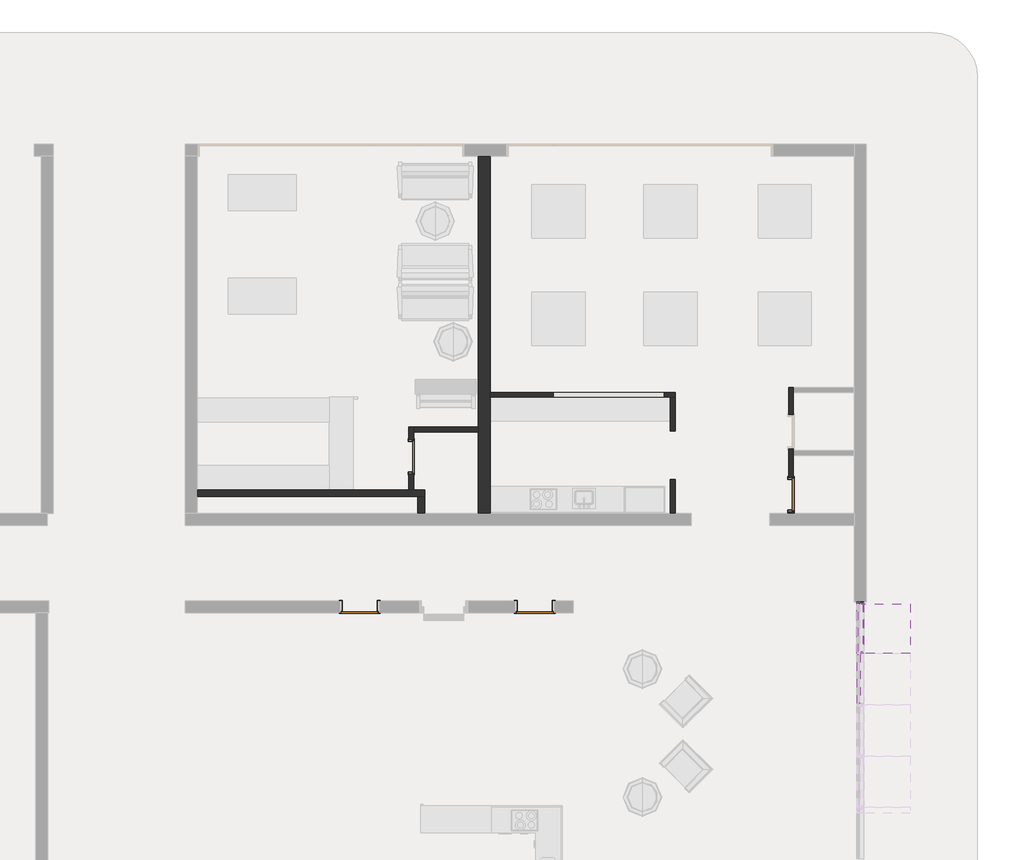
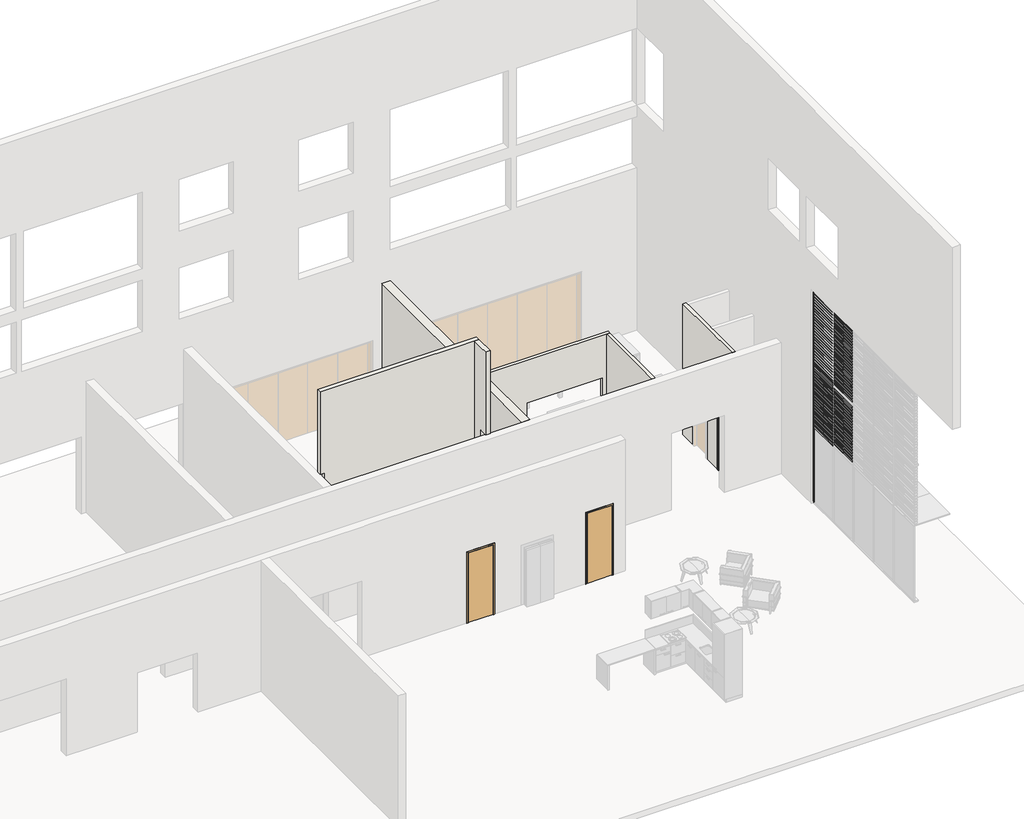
# One storey, part 7 of 8: 73 members, 32 plates, 8 walls, 4 doors.
"""IFC4 building model written with IfcOpenShell, lengths in millimetres."""

from ifc_helpers import new_model, si_unit, frame, origin, place, context, project, spatial, polyline, outline, extrude, faceted_brep, transform, mapped, element, save
from components import swing_metal_frame_single_dor1_c5ce34d2, swing_metal_frame_single_dor1_05198c53, swing_metal_frame_single_dor1_61deca97, rectangular_mullion_50_x_1200mm_c53331d8, rectangular_mullion_50_x_150mm_232fa5d8, rectangular_mullion_50_x_150mm_43455e2b, rectangular_mullion_50_x_150mm_917d0fed, rectangular_mullion_50_x_150mm_69155bbe, rectangular_mullion_timber_70_x_35_baa108a1, rectangular_mullion_timber_70_x_35_2d2b050c, empty_system_panel_empty_6a0359b6, empty_system_panel_empty_9e7b3ea5, empty_system_panel_empty_78dc3901

model = new_model("IFC4")

# Units and contexts
model_context = context("Model", 3, world=origin())
ifc_project = project(units=[si_unit("LENGTHUNIT", "METRE", prefix="MILLI")], contexts=[model_context])

# Site, building, storey
site = spatial("IfcSite", under=ifc_project)
building = spatial("IfcBuilding", under=site)
storey = spatial("IfcBuildingStorey", under=building, Name="0階", Elevation=25100.0)

# Doors
placement = place(None, origin())
swing_metal_frame_single_dor1_shape = swing_metal_frame_single_dor1_c5ce34d2(model_context)
element("IfcDoor", 1, ObjectType="Swing_Metal Frame_Single_DOR1 : 2040h x 820 (2110x920 STUD)", at=placement, inside=storey, context=model_context, shape_type="MappedRepresentation", body=[
    mapped(swing_metal_frame_single_dor1_shape, transform((37782.1585166, 8295.005792, 25100.0), x_axis=(-1.0, 0.0, 0.0), y_axis=(0.0, -1.0, 0.0), z_axis=(0.0, 0.0, 1.0))),
])
element("IfcDoor", 2, ObjectType="Swing_Metal Frame_Single_DOR1 : 2040h x 820 (2110x920 STUD)", at=placement, inside=storey, context=model_context, shape_type="MappedRepresentation", body=[
    mapped(swing_metal_frame_single_dor1_shape, transform((33842.1585166, 8295.005792, 25100.0), x_axis=(-1.0, 0.0, 0.0), y_axis=(0.0, -1.0, 0.0), z_axis=(0.0, 0.0, 1.0))),
])
swing_metal_frame_single_dor1_2_shape = swing_metal_frame_single_dor1_05198c53(model_context)
element("IfcDoor", 3, ObjectType="Swing_Metal Frame_Single_DOR1 : 2040h x 720 (2110x820 STUD)", at=placement, inside=storey, context=model_context, shape_type="MappedRepresentation", body=[
    mapped(swing_metal_frame_single_dor1_2_shape, transform((35003.3118017, 11670.0213727, 25100.0), x_axis=(0.0, -1.0, 0.0), y_axis=(1.0, 0.0, 0.0), z_axis=(0.0, 0.0, 1.0))),
])
swing_metal_frame_single_dor1_3_shape = swing_metal_frame_single_dor1_61deca97(model_context)
element("IfcDoor", 4, ObjectType="Swing_Metal Frame_Single_DOR1 : 2040h x 720 (2110x820 STUD)", at=placement, inside=storey, context=model_context, shape_type="MappedRepresentation", body=[
    mapped(swing_metal_frame_single_dor1_3_shape, transform((43541.7516212, 10820.005792, 25100.0), x_axis=(0.0, 1.0, 0.0), y_axis=(-1.0, 0.0, 0.0), z_axis=(0.0, 0.0, 1.0))),
])

# Members
rectangular_mullion_50_x_1200mm_shape = rectangular_mullion_50_x_1200mm_c53331d8(model_context)
element("IfcMember", 5, ObjectType="Rectangular Mullion : 50 x 1200mm", at=placement, inside=storey, context=model_context, shape_type="MappedRepresentation", body=[
    mapped(rectangular_mullion_50_x_1200mm_shape, transform((45100.0, 8359.0898177, 27800.0), x_axis=(0.0, 0.0, 1.0), y_axis=(1.0, 0.0, 0.0), z_axis=(0.0, 1.0, 0.0))),
])
rectangular_mullion_50_x_150mm_shape = rectangular_mullion_50_x_150mm_232fa5d8(model_context)
element("IfcMember", 6, ObjectType="Rectangular Mullion : 50 x 150mm", at=placement, inside=storey, context=model_context, shape_type="MappedRepresentation", body=[
    mapped(rectangular_mullion_50_x_150mm_shape, transform((45100.0, 8409.0898177, 32600.0), x_axis=(0.0, 0.0, 1.0), y_axis=(1.0, 0.0, 0.0), z_axis=(0.0, 1.0, 0.0))),
])
rectangular_mullion_50_x_150mm_2_shape = rectangular_mullion_50_x_150mm_43455e2b(model_context)
element("IfcMember", 7, ObjectType="Rectangular Mullion : 50 x 150mm", at=placement, inside=storey, context=model_context, shape_type="MappedRepresentation", body=[
    mapped(rectangular_mullion_50_x_150mm_2_shape, transform((45100.0, 8409.0898177, 25150.0), x_axis=(0.0, 1.0, 0.0), y_axis=(1.0, 0.0, 0.0), z_axis=(0.0, 0.0, -1.0))),
])
rectangular_mullion_50_x_150mm_3_shape = rectangular_mullion_50_x_150mm_917d0fed(model_context)
element("IfcMember", 8, ObjectType="Rectangular Mullion : 50 x 150mm", at=placement, inside=storey, context=model_context, shape_type="MappedRepresentation", body=[
    mapped(rectangular_mullion_50_x_150mm_3_shape, transform((45100.0, 8359.0898177, 29900.0), x_axis=(0.0, 0.0, 1.0), y_axis=(1.0, 0.0, 0.0), z_axis=(0.0, 1.0, 0.0))),
])
rectangular_mullion_50_x_150mm_4_shape = rectangular_mullion_50_x_150mm_69155bbe(model_context)
element("IfcMember", 9, ObjectType="Rectangular Mullion : 50 x 150mm", at=placement, inside=storey, context=model_context, shape_type="MappedRepresentation", body=[
    mapped(rectangular_mullion_50_x_150mm_4_shape, transform((45100.0, 8409.0898177, 27800.0), x_axis=(0.0, 1.0, 0.0), y_axis=(1.0, 0.0, 0.0), z_axis=(0.0, 0.0, -1.0))),
])
element("IfcMember", 10, ObjectType="Rectangular Mullion : 50 x 150mm", at=placement, inside=storey, context=model_context, shape_type="MappedRepresentation", body=[
    mapped(rectangular_mullion_50_x_150mm_2_shape, transform((45100.0, 8409.0898177, 29900.0), x_axis=(0.0, 1.0, 0.0), y_axis=(1.0, 0.0, 0.0), z_axis=(0.0, 0.0, -1.0))),
])
rectangular_mullion_timber_70_x_35_shape = rectangular_mullion_timber_70_x_35_baa108a1(model_context)
element("IfcMember", 11, ObjectType="Rectangular Mullion : Timber - 70 x 35", at=placement, inside=storey, context=model_context, shape_type="MappedRepresentation", body=[
    mapped(rectangular_mullion_timber_70_x_35_shape, transform((45100.0, 8359.0898177, 27907.5), x_axis=(0.0, 0.0, 1.0), y_axis=(1.0, 0.0, 0.0), z_axis=(0.0, 1.0, 0.0))),
])
element("IfcMember", 12, ObjectType="Rectangular Mullion : Timber - 70 x 35", at=placement, inside=storey, context=model_context, shape_type="MappedRepresentation", body=[
    mapped(rectangular_mullion_timber_70_x_35_shape, transform((45100.0, 8359.0898177, 28007.5), x_axis=(0.0, 0.0, 1.0), y_axis=(1.0, 0.0, 0.0), z_axis=(0.0, 1.0, 0.0))),
])
element("IfcMember", 13, ObjectType="Rectangular Mullion : Timber - 70 x 35", at=placement, inside=storey, context=model_context, shape_type="MappedRepresentation", body=[
    mapped(rectangular_mullion_timber_70_x_35_shape, transform((45100.0, 8359.0898177, 28107.5), x_axis=(0.0, 0.0, 1.0), y_axis=(1.0, 0.0, 0.0), z_axis=(0.0, 1.0, 0.0))),
])
element("IfcMember", 14, ObjectType="Rectangular Mullion : Timber - 70 x 35", at=placement, inside=storey, context=model_context, shape_type="MappedRepresentation", body=[
    mapped(rectangular_mullion_timber_70_x_35_shape, transform((45100.0, 8359.0898177, 28207.5), x_axis=(0.0, 0.0, 1.0), y_axis=(1.0, 0.0, 0.0), z_axis=(0.0, 1.0, 0.0))),
])
element("IfcMember", 15, ObjectType="Rectangular Mullion : Timber - 70 x 35", at=placement, inside=storey, context=model_context, shape_type="MappedRepresentation", body=[
    mapped(rectangular_mullion_timber_70_x_35_shape, transform((45100.0, 8359.0898177, 28307.5), x_axis=(0.0, 0.0, 1.0), y_axis=(1.0, 0.0, 0.0), z_axis=(0.0, 1.0, 0.0))),
])
element("IfcMember", 16, ObjectType="Rectangular Mullion : Timber - 70 x 35", at=placement, inside=storey, context=model_context, shape_type="MappedRepresentation", body=[
    mapped(rectangular_mullion_timber_70_x_35_shape, transform((45100.0, 8359.0898177, 28407.5), x_axis=(0.0, 0.0, 1.0), y_axis=(1.0, 0.0, 0.0), z_axis=(0.0, 1.0, 0.0))),
])
element("IfcMember", 17, ObjectType="Rectangular Mullion : Timber - 70 x 35", at=placement, inside=storey, context=model_context, shape_type="MappedRepresentation", body=[
    mapped(rectangular_mullion_timber_70_x_35_shape, transform((45100.0, 8359.0898177, 28507.5), x_axis=(0.0, 0.0, 1.0), y_axis=(1.0, 0.0, 0.0), z_axis=(0.0, 1.0, 0.0))),
])
element("IfcMember", 18, ObjectType="Rectangular Mullion : Timber - 70 x 35", at=placement, inside=storey, context=model_context, shape_type="MappedRepresentation", body=[
    mapped(rectangular_mullion_timber_70_x_35_shape, transform((45100.0, 8359.0898177, 28607.5), x_axis=(0.0, 0.0, 1.0), y_axis=(1.0, 0.0, 0.0), z_axis=(0.0, 1.0, 0.0))),
])
element("IfcMember", 19, ObjectType="Rectangular Mullion : Timber - 70 x 35", at=placement, inside=storey, context=model_context, shape_type="MappedRepresentation", body=[
    mapped(rectangular_mullion_timber_70_x_35_shape, transform((45100.0, 8359.0898177, 28707.5), x_axis=(0.0, 0.0, 1.0), y_axis=(1.0, 0.0, 0.0), z_axis=(0.0, 1.0, 0.0))),
])
element("IfcMember", 20, ObjectType="Rectangular Mullion : Timber - 70 x 35", at=placement, inside=storey, context=model_context, shape_type="MappedRepresentation", body=[
    mapped(rectangular_mullion_timber_70_x_35_shape, transform((45100.0, 8359.0898177, 28807.5), x_axis=(0.0, 0.0, 1.0), y_axis=(1.0, 0.0, 0.0), z_axis=(0.0, 1.0, 0.0))),
])
element("IfcMember", 21, ObjectType="Rectangular Mullion : Timber - 70 x 35", at=placement, inside=storey, context=model_context, shape_type="MappedRepresentation", body=[
    mapped(rectangular_mullion_timber_70_x_35_shape, transform((45100.0, 8359.0898177, 28907.5), x_axis=(0.0, 0.0, 1.0), y_axis=(1.0, 0.0, 0.0), z_axis=(0.0, 1.0, 0.0))),
])
element("IfcMember", 22, ObjectType="Rectangular Mullion : Timber - 70 x 35", at=placement, inside=storey, context=model_context, shape_type="MappedRepresentation", body=[
    mapped(rectangular_mullion_timber_70_x_35_shape, transform((45100.0, 8359.0898177, 29007.5), x_axis=(0.0, 0.0, 1.0), y_axis=(1.0, 0.0, 0.0), z_axis=(0.0, 1.0, 0.0))),
])
element("IfcMember", 23, ObjectType="Rectangular Mullion : Timber - 70 x 35", at=placement, inside=storey, context=model_context, shape_type="MappedRepresentation", body=[
    mapped(rectangular_mullion_timber_70_x_35_shape, transform((45100.0, 8359.0898177, 29107.5), x_axis=(0.0, 0.0, 1.0), y_axis=(1.0, 0.0, 0.0), z_axis=(0.0, 1.0, 0.0))),
])
element("IfcMember", 24, ObjectType="Rectangular Mullion : Timber - 70 x 35", at=placement, inside=storey, context=model_context, shape_type="MappedRepresentation", body=[
    mapped(rectangular_mullion_timber_70_x_35_shape, transform((45100.0, 8359.0898177, 29207.5), x_axis=(0.0, 0.0, 1.0), y_axis=(1.0, 0.0, 0.0), z_axis=(0.0, 1.0, 0.0))),
])
element("IfcMember", 25, ObjectType="Rectangular Mullion : Timber - 70 x 35", at=placement, inside=storey, context=model_context, shape_type="MappedRepresentation", body=[
    mapped(rectangular_mullion_timber_70_x_35_shape, transform((45100.0, 8359.0898177, 29307.5), x_axis=(0.0, 0.0, 1.0), y_axis=(1.0, 0.0, 0.0), z_axis=(0.0, 1.0, 0.0))),
])
element("IfcMember", 26, ObjectType="Rectangular Mullion : Timber - 70 x 35", at=placement, inside=storey, context=model_context, shape_type="MappedRepresentation", body=[
    mapped(rectangular_mullion_timber_70_x_35_shape, transform((45100.0, 8359.0898177, 29407.5), x_axis=(0.0, 0.0, 1.0), y_axis=(1.0, 0.0, 0.0), z_axis=(0.0, 1.0, 0.0))),
])
element("IfcMember", 27, ObjectType="Rectangular Mullion : Timber - 70 x 35", at=placement, inside=storey, context=model_context, shape_type="MappedRepresentation", body=[
    mapped(rectangular_mullion_timber_70_x_35_shape, transform((45100.0, 8359.0898177, 29507.5), x_axis=(0.0, 0.0, 1.0), y_axis=(1.0, 0.0, 0.0), z_axis=(0.0, 1.0, 0.0))),
])
element("IfcMember", 28, ObjectType="Rectangular Mullion : Timber - 70 x 35", at=placement, inside=storey, context=model_context, shape_type="MappedRepresentation", body=[
    mapped(rectangular_mullion_timber_70_x_35_shape, transform((45100.0, 8359.0898177, 29607.5), x_axis=(0.0, 0.0, 1.0), y_axis=(1.0, 0.0, 0.0), z_axis=(0.0, 1.0, 0.0))),
])
element("IfcMember", 29, ObjectType="Rectangular Mullion : Timber - 70 x 35", at=placement, inside=storey, context=model_context, shape_type="MappedRepresentation", body=[
    mapped(rectangular_mullion_timber_70_x_35_shape, transform((45100.0, 8359.0898177, 29707.5), x_axis=(0.0, 0.0, 1.0), y_axis=(1.0, 0.0, 0.0), z_axis=(0.0, 1.0, 0.0))),
])
element("IfcMember", 30, ObjectType="Rectangular Mullion : Timber - 70 x 35", at=placement, inside=storey, context=model_context, shape_type="MappedRepresentation", body=[
    mapped(rectangular_mullion_timber_70_x_35_shape, transform((45100.0, 8359.0898177, 29807.5), x_axis=(0.0, 0.0, 1.0), y_axis=(1.0, 0.0, 0.0), z_axis=(0.0, 1.0, 0.0))),
])
element("IfcMember", 31, ObjectType="Rectangular Mullion : Timber - 70 x 35", at=placement, inside=storey, context=model_context, shape_type="MappedRepresentation", body=[
    mapped(rectangular_mullion_timber_70_x_35_shape, transform((45100.0, 8359.0898177, 30007.5), x_axis=(0.0, 0.0, 1.0), y_axis=(1.0, 0.0, 0.0), z_axis=(0.0, 1.0, 0.0))),
])
rectangular_mullion_timber_70_x_35_2_shape = rectangular_mullion_timber_70_x_35_2d2b050c(model_context)
element("IfcMember", 32, ObjectType="Rectangular Mullion : Timber - 70 x 35", at=placement, inside=storey, context=model_context, shape_type="MappedRepresentation", body=[
    mapped(rectangular_mullion_timber_70_x_35_2_shape, transform((45100.0, 7226.9469605, 27907.5), x_axis=(0.0, 0.0, 1.0), y_axis=(1.0, 0.0, 0.0), z_axis=(0.0, 1.0, 0.0))),
])
element("IfcMember", 33, ObjectType="Rectangular Mullion : Timber - 70 x 35", at=placement, inside=storey, context=model_context, shape_type="MappedRepresentation", body=[
    mapped(rectangular_mullion_timber_70_x_35_2_shape, transform((45100.0, 7226.9469605, 28007.5), x_axis=(0.0, 0.0, 1.0), y_axis=(1.0, 0.0, 0.0), z_axis=(0.0, 1.0, 0.0))),
])
element("IfcMember", 34, ObjectType="Rectangular Mullion : Timber - 70 x 35", at=placement, inside=storey, context=model_context, shape_type="MappedRepresentation", body=[
    mapped(rectangular_mullion_timber_70_x_35_2_shape, transform((45100.0, 7226.9469605, 28107.5), x_axis=(0.0, 0.0, 1.0), y_axis=(1.0, 0.0, 0.0), z_axis=(0.0, 1.0, 0.0))),
])
element("IfcMember", 35, ObjectType="Rectangular Mullion : Timber - 70 x 35", at=placement, inside=storey, context=model_context, shape_type="MappedRepresentation", body=[
    mapped(rectangular_mullion_timber_70_x_35_2_shape, transform((45100.0, 7226.9469605, 28207.5), x_axis=(0.0, 0.0, 1.0), y_axis=(1.0, 0.0, 0.0), z_axis=(0.0, 1.0, 0.0))),
])
element("IfcMember", 36, ObjectType="Rectangular Mullion : Timber - 70 x 35", at=placement, inside=storey, context=model_context, shape_type="MappedRepresentation", body=[
    mapped(rectangular_mullion_timber_70_x_35_2_shape, transform((45100.0, 7226.9469605, 28307.5), x_axis=(0.0, 0.0, 1.0), y_axis=(1.0, 0.0, 0.0), z_axis=(0.0, 1.0, 0.0))),
])
element("IfcMember", 37, ObjectType="Rectangular Mullion : Timber - 70 x 35", at=placement, inside=storey, context=model_context, shape_type="MappedRepresentation", body=[
    mapped(rectangular_mullion_timber_70_x_35_2_shape, transform((45100.0, 7226.9469605, 28407.5), x_axis=(0.0, 0.0, 1.0), y_axis=(1.0, 0.0, 0.0), z_axis=(0.0, 1.0, 0.0))),
])
element("IfcMember", 38, ObjectType="Rectangular Mullion : Timber - 70 x 35", at=placement, inside=storey, context=model_context, shape_type="MappedRepresentation", body=[
    mapped(rectangular_mullion_timber_70_x_35_2_shape, transform((45100.0, 7226.9469605, 28507.5), x_axis=(0.0, 0.0, 1.0), y_axis=(1.0, 0.0, 0.0), z_axis=(0.0, 1.0, 0.0))),
])
element("IfcMember", 39, ObjectType="Rectangular Mullion : Timber - 70 x 35", at=placement, inside=storey, context=model_context, shape_type="MappedRepresentation", body=[
    mapped(rectangular_mullion_timber_70_x_35_2_shape, transform((45100.0, 7226.9469605, 28607.5), x_axis=(0.0, 0.0, 1.0), y_axis=(1.0, 0.0, 0.0), z_axis=(0.0, 1.0, 0.0))),
])
element("IfcMember", 40, ObjectType="Rectangular Mullion : Timber - 70 x 35", at=placement, inside=storey, context=model_context, shape_type="MappedRepresentation", body=[
    mapped(rectangular_mullion_timber_70_x_35_2_shape, transform((45100.0, 7226.9469605, 28707.5), x_axis=(0.0, 0.0, 1.0), y_axis=(1.0, 0.0, 0.0), z_axis=(0.0, 1.0, 0.0))),
])
element("IfcMember", 41, ObjectType="Rectangular Mullion : Timber - 70 x 35", at=placement, inside=storey, context=model_context, shape_type="MappedRepresentation", body=[
    mapped(rectangular_mullion_timber_70_x_35_2_shape, transform((45100.0, 7226.9469605, 28807.5), x_axis=(0.0, 0.0, 1.0), y_axis=(1.0, 0.0, 0.0), z_axis=(0.0, 1.0, 0.0))),
])
element("IfcMember", 42, ObjectType="Rectangular Mullion : Timber - 70 x 35", at=placement, inside=storey, context=model_context, shape_type="MappedRepresentation", body=[
    mapped(rectangular_mullion_timber_70_x_35_2_shape, transform((45100.0, 7226.9469605, 28907.5), x_axis=(0.0, 0.0, 1.0), y_axis=(1.0, 0.0, 0.0), z_axis=(0.0, 1.0, 0.0))),
])
element("IfcMember", 43, ObjectType="Rectangular Mullion : Timber - 70 x 35", at=placement, inside=storey, context=model_context, shape_type="MappedRepresentation", body=[
    mapped(rectangular_mullion_timber_70_x_35_2_shape, transform((45100.0, 7226.9469605, 29007.5), x_axis=(0.0, 0.0, 1.0), y_axis=(1.0, 0.0, 0.0), z_axis=(0.0, 1.0, 0.0))),
])
element("IfcMember", 44, ObjectType="Rectangular Mullion : Timber - 70 x 35", at=placement, inside=storey, context=model_context, shape_type="MappedRepresentation", body=[
    mapped(rectangular_mullion_timber_70_x_35_2_shape, transform((45100.0, 7226.9469605, 29107.5), x_axis=(0.0, 0.0, 1.0), y_axis=(1.0, 0.0, 0.0), z_axis=(0.0, 1.0, 0.0))),
])
element("IfcMember", 45, ObjectType="Rectangular Mullion : Timber - 70 x 35", at=placement, inside=storey, context=model_context, shape_type="MappedRepresentation", body=[
    mapped(rectangular_mullion_timber_70_x_35_2_shape, transform((45100.0, 7226.9469605, 29207.5), x_axis=(0.0, 0.0, 1.0), y_axis=(1.0, 0.0, 0.0), z_axis=(0.0, 1.0, 0.0))),
])
element("IfcMember", 46, ObjectType="Rectangular Mullion : Timber - 70 x 35", at=placement, inside=storey, context=model_context, shape_type="MappedRepresentation", body=[
    mapped(rectangular_mullion_timber_70_x_35_2_shape, transform((45100.0, 7226.9469605, 29307.5), x_axis=(0.0, 0.0, 1.0), y_axis=(1.0, 0.0, 0.0), z_axis=(0.0, 1.0, 0.0))),
])
element("IfcMember", 47, ObjectType="Rectangular Mullion : Timber - 70 x 35", at=placement, inside=storey, context=model_context, shape_type="MappedRepresentation", body=[
    mapped(rectangular_mullion_timber_70_x_35_2_shape, transform((45100.0, 7226.9469605, 29407.5), x_axis=(0.0, 0.0, 1.0), y_axis=(1.0, 0.0, 0.0), z_axis=(0.0, 1.0, 0.0))),
])
element("IfcMember", 48, ObjectType="Rectangular Mullion : Timber - 70 x 35", at=placement, inside=storey, context=model_context, shape_type="MappedRepresentation", body=[
    mapped(rectangular_mullion_timber_70_x_35_2_shape, transform((45100.0, 7226.9469605, 29507.5), x_axis=(0.0, 0.0, 1.0), y_axis=(1.0, 0.0, 0.0), z_axis=(0.0, 1.0, 0.0))),
])
element("IfcMember", 49, ObjectType="Rectangular Mullion : Timber - 70 x 35", at=placement, inside=storey, context=model_context, shape_type="MappedRepresentation", body=[
    mapped(rectangular_mullion_timber_70_x_35_2_shape, transform((45100.0, 7226.9469605, 29607.5), x_axis=(0.0, 0.0, 1.0), y_axis=(1.0, 0.0, 0.0), z_axis=(0.0, 1.0, 0.0))),
])
element("IfcMember", 50, ObjectType="Rectangular Mullion : Timber - 70 x 35", at=placement, inside=storey, context=model_context, shape_type="MappedRepresentation", body=[
    mapped(rectangular_mullion_timber_70_x_35_2_shape, transform((45100.0, 7226.9469605, 29707.5), x_axis=(0.0, 0.0, 1.0), y_axis=(1.0, 0.0, 0.0), z_axis=(0.0, 1.0, 0.0))),
])
element("IfcMember", 51, ObjectType="Rectangular Mullion : Timber - 70 x 35", at=placement, inside=storey, context=model_context, shape_type="MappedRepresentation", body=[
    mapped(rectangular_mullion_timber_70_x_35_2_shape, transform((45100.0, 7226.9469605, 29807.5), x_axis=(0.0, 0.0, 1.0), y_axis=(1.0, 0.0, 0.0), z_axis=(0.0, 1.0, 0.0))),
])
element("IfcMember", 52, ObjectType="Rectangular Mullion : Timber - 70 x 35", at=placement, inside=storey, context=model_context, shape_type="MappedRepresentation", body=[
    mapped(rectangular_mullion_timber_70_x_35_2_shape, transform((45100.0, 7226.9469605, 30007.5), x_axis=(0.0, 0.0, 1.0), y_axis=(1.0, 0.0, 0.0), z_axis=(0.0, 1.0, 0.0))),
])
element("IfcMember", 53, ObjectType="Rectangular Mullion : Timber - 70 x 35", at=placement, inside=storey, context=model_context, shape_type="MappedRepresentation", body=[
    mapped(rectangular_mullion_timber_70_x_35_2_shape, transform((45100.0, 7226.9469605, 30107.5), x_axis=(0.0, 0.0, 1.0), y_axis=(1.0, 0.0, 0.0), z_axis=(0.0, 1.0, 0.0))),
])
element("IfcMember", 54, ObjectType="Rectangular Mullion : Timber - 70 x 35", at=placement, inside=storey, context=model_context, shape_type="MappedRepresentation", body=[
    mapped(rectangular_mullion_timber_70_x_35_2_shape, transform((45100.0, 7226.9469605, 30207.5), x_axis=(0.0, 0.0, 1.0), y_axis=(1.0, 0.0, 0.0), z_axis=(0.0, 1.0, 0.0))),
])
element("IfcMember", 55, ObjectType="Rectangular Mullion : Timber - 70 x 35", at=placement, inside=storey, context=model_context, shape_type="MappedRepresentation", body=[
    mapped(rectangular_mullion_timber_70_x_35_2_shape, transform((45100.0, 7226.9469605, 30307.5), x_axis=(0.0, 0.0, 1.0), y_axis=(1.0, 0.0, 0.0), z_axis=(0.0, 1.0, 0.0))),
])
element("IfcMember", 56, ObjectType="Rectangular Mullion : Timber - 70 x 35", at=placement, inside=storey, context=model_context, shape_type="MappedRepresentation", body=[
    mapped(rectangular_mullion_timber_70_x_35_2_shape, transform((45100.0, 7226.9469605, 30407.5), x_axis=(0.0, 0.0, 1.0), y_axis=(1.0, 0.0, 0.0), z_axis=(0.0, 1.0, 0.0))),
])
element("IfcMember", 57, ObjectType="Rectangular Mullion : Timber - 70 x 35", at=placement, inside=storey, context=model_context, shape_type="MappedRepresentation", body=[
    mapped(rectangular_mullion_timber_70_x_35_2_shape, transform((45100.0, 7226.9469605, 30507.5), x_axis=(0.0, 0.0, 1.0), y_axis=(1.0, 0.0, 0.0), z_axis=(0.0, 1.0, 0.0))),
])
element("IfcMember", 58, ObjectType="Rectangular Mullion : Timber - 70 x 35", at=placement, inside=storey, context=model_context, shape_type="MappedRepresentation", body=[
    mapped(rectangular_mullion_timber_70_x_35_2_shape, transform((45100.0, 7226.9469605, 30607.5), x_axis=(0.0, 0.0, 1.0), y_axis=(1.0, 0.0, 0.0), z_axis=(0.0, 1.0, 0.0))),
])
element("IfcMember", 59, ObjectType="Rectangular Mullion : Timber - 70 x 35", at=placement, inside=storey, context=model_context, shape_type="MappedRepresentation", body=[
    mapped(rectangular_mullion_timber_70_x_35_2_shape, transform((45100.0, 7226.9469605, 30707.5), x_axis=(0.0, 0.0, 1.0), y_axis=(1.0, 0.0, 0.0), z_axis=(0.0, 1.0, 0.0))),
])
element("IfcMember", 60, ObjectType="Rectangular Mullion : Timber - 70 x 35", at=placement, inside=storey, context=model_context, shape_type="MappedRepresentation", body=[
    mapped(rectangular_mullion_timber_70_x_35_2_shape, transform((45100.0, 7226.9469605, 30807.5), x_axis=(0.0, 0.0, 1.0), y_axis=(1.0, 0.0, 0.0), z_axis=(0.0, 1.0, 0.0))),
])
element("IfcMember", 61, ObjectType="Rectangular Mullion : Timber - 70 x 35", at=placement, inside=storey, context=model_context, shape_type="MappedRepresentation", body=[
    mapped(rectangular_mullion_timber_70_x_35_2_shape, transform((45100.0, 7226.9469605, 30907.5), x_axis=(0.0, 0.0, 1.0), y_axis=(1.0, 0.0, 0.0), z_axis=(0.0, 1.0, 0.0))),
])
element("IfcMember", 62, ObjectType="Rectangular Mullion : Timber - 70 x 35", at=placement, inside=storey, context=model_context, shape_type="MappedRepresentation", body=[
    mapped(rectangular_mullion_timber_70_x_35_2_shape, transform((45100.0, 7226.9469605, 31007.5), x_axis=(0.0, 0.0, 1.0), y_axis=(1.0, 0.0, 0.0), z_axis=(0.0, 1.0, 0.0))),
])
element("IfcMember", 63, ObjectType="Rectangular Mullion : Timber - 70 x 35", at=placement, inside=storey, context=model_context, shape_type="MappedRepresentation", body=[
    mapped(rectangular_mullion_timber_70_x_35_2_shape, transform((45100.0, 7226.9469605, 31107.5), x_axis=(0.0, 0.0, 1.0), y_axis=(1.0, 0.0, 0.0), z_axis=(0.0, 1.0, 0.0))),
])
element("IfcMember", 64, ObjectType="Rectangular Mullion : Timber - 70 x 35", at=placement, inside=storey, context=model_context, shape_type="MappedRepresentation", body=[
    mapped(rectangular_mullion_timber_70_x_35_2_shape, transform((45100.0, 7226.9469605, 31207.5), x_axis=(0.0, 0.0, 1.0), y_axis=(1.0, 0.0, 0.0), z_axis=(0.0, 1.0, 0.0))),
])
element("IfcMember", 65, ObjectType="Rectangular Mullion : Timber - 70 x 35", at=placement, inside=storey, context=model_context, shape_type="MappedRepresentation", body=[
    mapped(rectangular_mullion_timber_70_x_35_2_shape, transform((45100.0, 7226.9469605, 31307.5), x_axis=(0.0, 0.0, 1.0), y_axis=(1.0, 0.0, 0.0), z_axis=(0.0, 1.0, 0.0))),
])
element("IfcMember", 66, ObjectType="Rectangular Mullion : Timber - 70 x 35", at=placement, inside=storey, context=model_context, shape_type="MappedRepresentation", body=[
    mapped(rectangular_mullion_timber_70_x_35_2_shape, transform((45100.0, 7226.9469605, 31407.5), x_axis=(0.0, 0.0, 1.0), y_axis=(1.0, 0.0, 0.0), z_axis=(0.0, 1.0, 0.0))),
])
element("IfcMember", 67, ObjectType="Rectangular Mullion : Timber - 70 x 35", at=placement, inside=storey, context=model_context, shape_type="MappedRepresentation", body=[
    mapped(rectangular_mullion_timber_70_x_35_2_shape, transform((45100.0, 7226.9469605, 31507.5), x_axis=(0.0, 0.0, 1.0), y_axis=(1.0, 0.0, 0.0), z_axis=(0.0, 1.0, 0.0))),
])
element("IfcMember", 68, ObjectType="Rectangular Mullion : Timber - 70 x 35", at=placement, inside=storey, context=model_context, shape_type="MappedRepresentation", body=[
    mapped(rectangular_mullion_timber_70_x_35_2_shape, transform((45100.0, 7226.9469605, 31607.5), x_axis=(0.0, 0.0, 1.0), y_axis=(1.0, 0.0, 0.0), z_axis=(0.0, 1.0, 0.0))),
])
element("IfcMember", 69, ObjectType="Rectangular Mullion : Timber - 70 x 35", at=placement, inside=storey, context=model_context, shape_type="MappedRepresentation", body=[
    mapped(rectangular_mullion_timber_70_x_35_2_shape, transform((45100.0, 7226.9469605, 31707.5), x_axis=(0.0, 0.0, 1.0), y_axis=(1.0, 0.0, 0.0), z_axis=(0.0, 1.0, 0.0))),
])
element("IfcMember", 70, ObjectType="Rectangular Mullion : Timber - 70 x 35", at=placement, inside=storey, context=model_context, shape_type="MappedRepresentation", body=[
    mapped(rectangular_mullion_timber_70_x_35_2_shape, transform((45100.0, 7226.9469605, 31807.5), x_axis=(0.0, 0.0, 1.0), y_axis=(1.0, 0.0, 0.0), z_axis=(0.0, 1.0, 0.0))),
])
element("IfcMember", 71, ObjectType="Rectangular Mullion : Timber - 70 x 35", at=placement, inside=storey, context=model_context, shape_type="MappedRepresentation", body=[
    mapped(rectangular_mullion_timber_70_x_35_2_shape, transform((45100.0, 7226.9469605, 31907.5), x_axis=(0.0, 0.0, 1.0), y_axis=(1.0, 0.0, 0.0), z_axis=(0.0, 1.0, 0.0))),
])
element("IfcMember", 72, ObjectType="Rectangular Mullion : Timber - 70 x 35", at=placement, inside=storey, context=model_context, shape_type="MappedRepresentation", body=[
    mapped(rectangular_mullion_timber_70_x_35_2_shape, transform((45100.0, 7226.9469605, 32007.5), x_axis=(0.0, 0.0, 1.0), y_axis=(1.0, 0.0, 0.0), z_axis=(0.0, 1.0, 0.0))),
])
element("IfcMember", 73, ObjectType="Rectangular Mullion : Timber - 70 x 35", at=placement, inside=storey, context=model_context, shape_type="MappedRepresentation", body=[
    mapped(rectangular_mullion_timber_70_x_35_2_shape, transform((45100.0, 7226.9469605, 32107.5), x_axis=(0.0, 0.0, 1.0), y_axis=(1.0, 0.0, 0.0), z_axis=(0.0, 1.0, 0.0))),
])
element("IfcMember", 74, ObjectType="Rectangular Mullion : Timber - 70 x 35", at=placement, inside=storey, context=model_context, shape_type="MappedRepresentation", body=[
    mapped(rectangular_mullion_timber_70_x_35_2_shape, transform((45100.0, 7226.9469605, 32207.5), x_axis=(0.0, 0.0, 1.0), y_axis=(1.0, 0.0, 0.0), z_axis=(0.0, 1.0, 0.0))),
])
element("IfcMember", 75, ObjectType="Rectangular Mullion : Timber - 70 x 35", at=placement, inside=storey, context=model_context, shape_type="MappedRepresentation", body=[
    mapped(rectangular_mullion_timber_70_x_35_2_shape, transform((45100.0, 7226.9469605, 32307.5), x_axis=(0.0, 0.0, 1.0), y_axis=(1.0, 0.0, 0.0), z_axis=(0.0, 1.0, 0.0))),
])
element("IfcMember", 76, ObjectType="Rectangular Mullion : Timber - 70 x 35", at=placement, inside=storey, context=model_context, shape_type="MappedRepresentation", body=[
    mapped(rectangular_mullion_timber_70_x_35_2_shape, transform((45100.0, 7226.9469605, 32407.5), x_axis=(0.0, 0.0, 1.0), y_axis=(1.0, 0.0, 0.0), z_axis=(0.0, 1.0, 0.0))),
])
element("IfcMember", 77, ObjectType="Rectangular Mullion : Timber - 70 x 35", at=placement, inside=storey, context=model_context, shape_type="MappedRepresentation", body=[
    mapped(rectangular_mullion_timber_70_x_35_2_shape, transform((45100.0, 7226.9469605, 32507.5), x_axis=(0.0, 0.0, 1.0), y_axis=(1.0, 0.0, 0.0), z_axis=(0.0, 1.0, 0.0))),
])

# Plates
empty_system_panel_empty_shape = empty_system_panel_empty_6a0359b6(model_context)
element("IfcPlate", 78, ObjectType="Empty System Panel : Empty", at=placement, inside=storey, context=model_context, shape_type="MappedRepresentation", body=[
    mapped(empty_system_panel_empty_shape, transform((45100.0, 7818.0183891, 29325.0), x_axis=(0.0, 1.0, 0.0), y_axis=(-1.0, 0.0, 0.0), z_axis=(0.0, 0.0, 1.0))),
])
element("IfcPlate", 79, ObjectType="Empty System Panel : Empty", at=placement, inside=storey, context=model_context, shape_type="MappedRepresentation", body=[
    mapped(empty_system_panel_empty_shape, transform((45100.0, 7818.0183891, 29425.0), x_axis=(0.0, 1.0, 0.0), y_axis=(-1.0, 0.0, 0.0), z_axis=(0.0, 0.0, 1.0))),
])
element("IfcPlate", 80, ObjectType="Empty System Panel : Empty", at=placement, inside=storey, context=model_context, shape_type="MappedRepresentation", body=[
    mapped(empty_system_panel_empty_shape, transform((45100.0, 7818.0183891, 29525.0), x_axis=(0.0, 1.0, 0.0), y_axis=(-1.0, 0.0, 0.0), z_axis=(0.0, 0.0, 1.0))),
])
element("IfcPlate", 81, ObjectType="Empty System Panel : Empty", at=placement, inside=storey, context=model_context, shape_type="MappedRepresentation", body=[
    mapped(empty_system_panel_empty_shape, transform((45100.0, 7818.0183891, 29625.0), x_axis=(0.0, 1.0, 0.0), y_axis=(-1.0, 0.0, 0.0), z_axis=(0.0, 0.0, 1.0))),
])
element("IfcPlate", 82, ObjectType="Empty System Panel : Empty", at=placement, inside=storey, context=model_context, shape_type="MappedRepresentation", body=[
    mapped(empty_system_panel_empty_shape, transform((45100.0, 7818.0183891, 29725.0), x_axis=(0.0, 1.0, 0.0), y_axis=(-1.0, 0.0, 0.0), z_axis=(0.0, 0.0, 1.0))),
])
element("IfcPlate", 83, ObjectType="Empty System Panel : Empty", at=placement, inside=storey, context=model_context, shape_type="MappedRepresentation", body=[
    mapped(empty_system_panel_empty_shape, transform((45100.0, 7818.0183891, 30025.0), x_axis=(0.0, 1.0, 0.0), y_axis=(-1.0, 0.0, 0.0), z_axis=(0.0, 0.0, 1.0))),
])
element("IfcPlate", 84, ObjectType="Empty System Panel : Empty", at=placement, inside=storey, context=model_context, shape_type="MappedRepresentation", body=[
    mapped(empty_system_panel_empty_shape, transform((45100.0, 7818.0183891, 30125.0), x_axis=(0.0, 1.0, 0.0), y_axis=(-1.0, 0.0, 0.0), z_axis=(0.0, 0.0, 1.0))),
])
element("IfcPlate", 85, ObjectType="Empty System Panel : Empty", at=placement, inside=storey, context=model_context, shape_type="MappedRepresentation", body=[
    mapped(empty_system_panel_empty_shape, transform((45100.0, 7818.0183891, 30225.0), x_axis=(0.0, 1.0, 0.0), y_axis=(-1.0, 0.0, 0.0), z_axis=(0.0, 0.0, 1.0))),
])
element("IfcPlate", 86, ObjectType="Empty System Panel : Empty", at=placement, inside=storey, context=model_context, shape_type="MappedRepresentation", body=[
    mapped(empty_system_panel_empty_shape, transform((45100.0, 7818.0183891, 30325.0), x_axis=(0.0, 1.0, 0.0), y_axis=(-1.0, 0.0, 0.0), z_axis=(0.0, 0.0, 1.0))),
])
element("IfcPlate", 87, ObjectType="Empty System Panel : Empty", at=placement, inside=storey, context=model_context, shape_type="MappedRepresentation", body=[
    mapped(empty_system_panel_empty_shape, transform((45100.0, 7818.0183891, 30425.0), x_axis=(0.0, 1.0, 0.0), y_axis=(-1.0, 0.0, 0.0), z_axis=(0.0, 0.0, 1.0))),
])
element("IfcPlate", 88, ObjectType="Empty System Panel : Empty", at=placement, inside=storey, context=model_context, shape_type="MappedRepresentation", body=[
    mapped(empty_system_panel_empty_shape, transform((45100.0, 7818.0183891, 30525.0), x_axis=(0.0, 1.0, 0.0), y_axis=(-1.0, 0.0, 0.0), z_axis=(0.0, 0.0, 1.0))),
])
element("IfcPlate", 89, ObjectType="Empty System Panel : Empty", at=placement, inside=storey, context=model_context, shape_type="MappedRepresentation", body=[
    mapped(empty_system_panel_empty_shape, transform((45100.0, 7818.0183891, 30625.0), x_axis=(0.0, 1.0, 0.0), y_axis=(-1.0, 0.0, 0.0), z_axis=(0.0, 0.0, 1.0))),
])
element("IfcPlate", 90, ObjectType="Empty System Panel : Empty", at=placement, inside=storey, context=model_context, shape_type="MappedRepresentation", body=[
    mapped(empty_system_panel_empty_shape, transform((45100.0, 7818.0183891, 30725.0), x_axis=(0.0, 1.0, 0.0), y_axis=(-1.0, 0.0, 0.0), z_axis=(0.0, 0.0, 1.0))),
])
element("IfcPlate", 91, ObjectType="Empty System Panel : Empty", at=placement, inside=storey, context=model_context, shape_type="MappedRepresentation", body=[
    mapped(empty_system_panel_empty_shape, transform((45100.0, 7818.0183891, 30825.0), x_axis=(0.0, 1.0, 0.0), y_axis=(-1.0, 0.0, 0.0), z_axis=(0.0, 0.0, 1.0))),
])
element("IfcPlate", 92, ObjectType="Empty System Panel : Empty", at=placement, inside=storey, context=model_context, shape_type="MappedRepresentation", body=[
    mapped(empty_system_panel_empty_shape, transform((45100.0, 7818.0183891, 30925.0), x_axis=(0.0, 1.0, 0.0), y_axis=(-1.0, 0.0, 0.0), z_axis=(0.0, 0.0, 1.0))),
])
element("IfcPlate", 93, ObjectType="Empty System Panel : Empty", at=placement, inside=storey, context=model_context, shape_type="MappedRepresentation", body=[
    mapped(empty_system_panel_empty_shape, transform((45100.0, 7818.0183891, 31025.0), x_axis=(0.0, 1.0, 0.0), y_axis=(-1.0, 0.0, 0.0), z_axis=(0.0, 0.0, 1.0))),
])
element("IfcPlate", 94, ObjectType="Empty System Panel : Empty", at=placement, inside=storey, context=model_context, shape_type="MappedRepresentation", body=[
    mapped(empty_system_panel_empty_shape, transform((45100.0, 7818.0183891, 31125.0), x_axis=(0.0, 1.0, 0.0), y_axis=(-1.0, 0.0, 0.0), z_axis=(0.0, 0.0, 1.0))),
])
element("IfcPlate", 95, ObjectType="Empty System Panel : Empty", at=placement, inside=storey, context=model_context, shape_type="MappedRepresentation", body=[
    mapped(empty_system_panel_empty_shape, transform((45100.0, 7818.0183891, 31225.0), x_axis=(0.0, 1.0, 0.0), y_axis=(-1.0, 0.0, 0.0), z_axis=(0.0, 0.0, 1.0))),
])
element("IfcPlate", 96, ObjectType="Empty System Panel : Empty", at=placement, inside=storey, context=model_context, shape_type="MappedRepresentation", body=[
    mapped(empty_system_panel_empty_shape, transform((45100.0, 7818.0183891, 31325.0), x_axis=(0.0, 1.0, 0.0), y_axis=(-1.0, 0.0, 0.0), z_axis=(0.0, 0.0, 1.0))),
])
element("IfcPlate", 97, ObjectType="Empty System Panel : Empty", at=placement, inside=storey, context=model_context, shape_type="MappedRepresentation", body=[
    mapped(empty_system_panel_empty_shape, transform((45100.0, 7818.0183891, 31425.0), x_axis=(0.0, 1.0, 0.0), y_axis=(-1.0, 0.0, 0.0), z_axis=(0.0, 0.0, 1.0))),
])
element("IfcPlate", 98, ObjectType="Empty System Panel : Empty", at=placement, inside=storey, context=model_context, shape_type="MappedRepresentation", body=[
    mapped(empty_system_panel_empty_shape, transform((45100.0, 7818.0183891, 31525.0), x_axis=(0.0, 1.0, 0.0), y_axis=(-1.0, 0.0, 0.0), z_axis=(0.0, 0.0, 1.0))),
])
element("IfcPlate", 99, ObjectType="Empty System Panel : Empty", at=placement, inside=storey, context=model_context, shape_type="MappedRepresentation", body=[
    mapped(empty_system_panel_empty_shape, transform((45100.0, 7818.0183891, 31625.0), x_axis=(0.0, 1.0, 0.0), y_axis=(-1.0, 0.0, 0.0), z_axis=(0.0, 0.0, 1.0))),
])
element("IfcPlate", 100, ObjectType="Empty System Panel : Empty", at=placement, inside=storey, context=model_context, shape_type="MappedRepresentation", body=[
    mapped(empty_system_panel_empty_shape, transform((45100.0, 7818.0183891, 31725.0), x_axis=(0.0, 1.0, 0.0), y_axis=(-1.0, 0.0, 0.0), z_axis=(0.0, 0.0, 1.0))),
])
element("IfcPlate", 101, ObjectType="Empty System Panel : Empty", at=placement, inside=storey, context=model_context, shape_type="MappedRepresentation", body=[
    mapped(empty_system_panel_empty_shape, transform((45100.0, 7818.0183891, 31825.0), x_axis=(0.0, 1.0, 0.0), y_axis=(-1.0, 0.0, 0.0), z_axis=(0.0, 0.0, 1.0))),
])
element("IfcPlate", 102, ObjectType="Empty System Panel : Empty", at=placement, inside=storey, context=model_context, shape_type="MappedRepresentation", body=[
    mapped(empty_system_panel_empty_shape, transform((45100.0, 7818.0183891, 31925.0), x_axis=(0.0, 1.0, 0.0), y_axis=(-1.0, 0.0, 0.0), z_axis=(0.0, 0.0, 1.0))),
])
element("IfcPlate", 103, ObjectType="Empty System Panel : Empty", at=placement, inside=storey, context=model_context, shape_type="MappedRepresentation", body=[
    mapped(empty_system_panel_empty_shape, transform((45100.0, 7818.0183891, 32025.0), x_axis=(0.0, 1.0, 0.0), y_axis=(-1.0, 0.0, 0.0), z_axis=(0.0, 0.0, 1.0))),
])
element("IfcPlate", 104, ObjectType="Empty System Panel : Empty", at=placement, inside=storey, context=model_context, shape_type="MappedRepresentation", body=[
    mapped(empty_system_panel_empty_shape, transform((45100.0, 7818.0183891, 32125.0), x_axis=(0.0, 1.0, 0.0), y_axis=(-1.0, 0.0, 0.0), z_axis=(0.0, 0.0, 1.0))),
])
element("IfcPlate", 105, ObjectType="Empty System Panel : Empty", at=placement, inside=storey, context=model_context, shape_type="MappedRepresentation", body=[
    mapped(empty_system_panel_empty_shape, transform((45100.0, 7818.0183891, 32225.0), x_axis=(0.0, 1.0, 0.0), y_axis=(-1.0, 0.0, 0.0), z_axis=(0.0, 0.0, 1.0))),
])
element("IfcPlate", 106, ObjectType="Empty System Panel : Empty", at=placement, inside=storey, context=model_context, shape_type="MappedRepresentation", body=[
    mapped(empty_system_panel_empty_shape, transform((45100.0, 7818.0183891, 32325.0), x_axis=(0.0, 1.0, 0.0), y_axis=(-1.0, 0.0, 0.0), z_axis=(0.0, 0.0, 1.0))),
])
element("IfcPlate", 107, ObjectType="Empty System Panel : Empty", at=placement, inside=storey, context=model_context, shape_type="MappedRepresentation", body=[
    mapped(empty_system_panel_empty_shape, transform((45100.0, 7818.0183891, 32425.0), x_axis=(0.0, 1.0, 0.0), y_axis=(-1.0, 0.0, 0.0), z_axis=(0.0, 0.0, 1.0))),
])
empty_system_panel_empty_2_shape = empty_system_panel_empty_9e7b3ea5(model_context)
element("IfcPlate", 108, ObjectType="Empty System Panel : Empty", at=placement, inside=storey, context=model_context, shape_type="MappedRepresentation", body=[
    mapped(empty_system_panel_empty_2_shape, transform((45100.0, 7818.0183891, 29825.0), x_axis=(0.0, 1.0, 0.0), y_axis=(-1.0, 0.0, 0.0), z_axis=(0.0, 0.0, 1.0))),
])
empty_system_panel_empty_3_shape = empty_system_panel_empty_78dc3901(model_context)
element("IfcPlate", 109, ObjectType="Empty System Panel : Empty", at=placement, inside=storey, context=model_context, shape_type="MappedRepresentation", body=[
    mapped(empty_system_panel_empty_3_shape, transform((45100.0, 7818.0183891, 32525.0), x_axis=(0.0, 1.0, 0.0), y_axis=(-1.0, 0.0, 0.0), z_axis=(0.0, 0.0, 1.0))),
])

# Walls
element("IfcWall", 110, ObjectType="Brickwork_Double_270mm", at=placement, inside=storey, context=model_context, shape_type="Brep", body=[
    faceted_brep([(36776.5601806, 10400.005792, 25100.0), (36776.5601806, 13011.966668, 25100.0), (36776.5601806, 13121.966668, 25100.0), (36776.5601806, 18440.0, 25100.0), (36776.5601806, 18440.0, 29700.0), (36776.5601806, 13121.966668, 29700.0), (36776.5601806, 13011.966668, 29700.0), (36776.5601806, 10400.005792, 29700.0), (36506.5601806, 10400.005792, 25100.0), (36506.5601806, 10400.005792, 29700.0), (36506.5601806, 12231.0018107, 29700.0), (36506.5601806, 12341.0018107, 29700.0), (36506.5601806, 18440.0, 29700.0), (36506.5601806, 18440.0, 25100.0), (36506.5601806, 12341.0018107, 25100.0), (36506.5601806, 12231.0018107, 25100.0)], [[[0, 1, 2, 3, 4, 5, 6, 7]], [[8, 9, 10, 11, 12, 13, 14, 15]], [[3, 2, 1, 0, 8, 15, 14, 13]], [[7, 6, 5, 4, 12, 11, 10, 9]], [[4, 3, 13, 12]], [[0, 7, 9, 8]]]),
])
element("IfcWall", 111, ObjectType="Brickwork_Single_110mm", at=placement, inside=storey, context=model_context, shape_type="Brep", body=[
    faceted_brep([(36776.5601806, 13011.966668, 25100.0), (40829.858031, 13011.966668, 25100.0), (40939.858031, 13011.966668, 25100.0), (40939.858031, 13011.966668, 29700.0), (40829.858031, 13011.966668, 29700.0), (36776.5601806, 13011.966668, 29700.0), (38191.5601806, 13011.966668, 26100.0), (38191.5601806, 13011.966668, 28200.0), (40691.5601806, 13011.966668, 28200.0), (40691.5601806, 13011.966668, 26100.0), (40939.858031, 13121.966668, 25100.0), (36776.5601806, 13121.966668, 25100.0), (36776.5601806, 13121.966668, 29700.0), (40939.858031, 13121.966668, 29700.0), (38191.5601806, 13121.966668, 28200.0), (38191.5601806, 13121.966668, 26100.0), (40691.5601806, 13121.966668, 26100.0), (40691.5601806, 13121.966668, 28200.0)], [[[0, 1, 2, 3, 4, 5], [6, 7, 8, 9]], [[10, 11, 12, 13], [14, 15, 16, 17]], [[2, 1, 0, 11, 10]], [[5, 4, 3, 13, 12]], [[0, 5, 12, 11]], [[3, 2, 10, 13]], [[6, 15, 14, 7]], [[7, 14, 17, 8]], [[8, 17, 16, 9]], [[15, 6, 9, 16]]]),
])
element("IfcWall", 112, ObjectType="Brickwork_Single_110mm", at=placement, inside=storey, context=model_context, shape_type="SweptSolid", body=[
    extrude(outline(polyline([(10411.966668, 25100.0), (10411.966668, 29700.0), (13011.966668, 29700.0), (13011.966668, 25100.0), (12249.466668, 25100.0), (12249.466668, 27800.0), (11156.7451177, 27800.0), (11156.7451177, 25100.0), (10411.966668, 25100.0)])), frame((40829.858031, 0.0, 0.0), z_axis=(1.0, 0.0, 0.0), x_axis=(0.0, 1.0, 0.0)), (0.0, 0.0, 1.0), 110.0),
])
element("IfcWall", 113, ObjectType="Brickwork_Single_110mm", at=placement, inside=storey, context=model_context, shape_type="Brep", body=[
    faceted_brep([(43596.7516212, 13231.966668, 29700.0), (43596.7516212, 13121.966668, 29700.0), (43596.7516212, 11810.98623, 29700.0), (43596.7516212, 11700.98623, 29700.0), (43596.7516212, 10400.005792, 29700.0), (43596.7516212, 10400.005792, 25100.0), (43596.7516212, 10430.005792, 25100.0), (43596.7516212, 10430.005792, 27590.0), (43596.7516212, 11210.005792, 27590.0), (43596.7516212, 11210.005792, 25100.0), (43596.7516212, 11700.98623, 25100.0), (43596.7516212, 11810.98623, 25100.0), (43596.7516212, 11845.98623, 25100.0), (43596.7516212, 11845.98623, 27590.0), (43596.7516212, 12625.98623, 27590.0), (43596.7516212, 12625.98623, 25100.0), (43596.7516212, 13121.966668, 25100.0), (43596.7516212, 13231.966668, 25100.0), (43486.7516212, 10400.005792, 29700.0), (43486.7516212, 13231.966668, 29700.0), (43486.7516212, 13231.966668, 25100.0), (43486.7516212, 12625.98623, 25100.0), (43486.7516212, 12625.98623, 27590.0), (43486.7516212, 11845.98623, 27590.0), (43486.7516212, 11845.98623, 25100.0), (43486.7516212, 11210.005792, 25100.0), (43486.7516212, 11210.005792, 27590.0), (43486.7516212, 10430.005792, 27590.0), (43486.7516212, 10430.005792, 25100.0), (43486.7516212, 10400.005792, 25100.0)], [[[0, 1, 2, 3, 4, 5, 6, 7, 8, 9, 10, 11, 12, 13, 14, 15, 16, 17]], [[18, 19, 20, 21, 22, 23, 24, 25, 26, 27, 28, 29]], [[20, 17, 16, 15, 21]], [[5, 29, 28, 6]], [[9, 25, 24, 12, 11, 10]], [[4, 3, 2, 1, 0, 19, 18]], [[5, 4, 18, 29]], [[0, 17, 20, 19]], [[8, 26, 25, 9]], [[26, 8, 7, 27]], [[27, 7, 6, 28]], [[14, 22, 21, 15]], [[22, 14, 13, 23]], [[23, 13, 12, 24]]]),
])
element("IfcWall", 114, ObjectType="Brickwork_Single_110mm", at=placement, inside=storey, context=model_context, shape_type="Brep", body=[
    faceted_brep([(35058.3118017, 12341.0018107, 29700.0), (35058.3118017, 12231.0018107, 29700.0), (35058.3118017, 10930.0213727, 29700.0), (35058.3118017, 10930.0213727, 25100.0), (35058.3118017, 11280.0213727, 25100.0), (35058.3118017, 11280.0213727, 27590.0), (35058.3118017, 12060.0213727, 27590.0), (35058.3118017, 12060.0213727, 25100.0), (35058.3118017, 12231.0018107, 25100.0), (35058.3118017, 12341.0018107, 25100.0), (34948.3118017, 10930.0213727, 29700.0), (34948.3118017, 12341.0018107, 29700.0), (34948.3118017, 12341.0018107, 25100.0), (34948.3118017, 12060.0213727, 25100.0), (34948.3118017, 12060.0213727, 27590.0), (34948.3118017, 11280.0213727, 27590.0), (34948.3118017, 11280.0213727, 25100.0), (34948.3118017, 10930.0213727, 25100.0)], [[[0, 1, 2, 3, 4, 5, 6, 7, 8, 9]], [[10, 11, 12, 13, 14, 15, 16, 17]], [[3, 17, 16, 4]], [[12, 9, 8, 7, 13]], [[2, 1, 0, 11, 10]], [[15, 5, 4, 16]], [[5, 15, 14, 6]], [[6, 14, 13, 7]], [[3, 2, 10, 17]], [[0, 9, 12, 11]]]),
])
element("IfcWall", 115, ObjectType="Brickwork_Single_110mm", at=placement, inside=storey, context=model_context, shape_type="SweptSolid", body=[
    extrude(outline(polyline([(36506.5601806, 12231.0018107), (35058.3118017, 12231.0018107), (35058.3118017, 12341.0018107), (36506.5601806, 12341.0018107), (36506.5601806, 12231.0018107)])), frame((0.0, 0.0, 25100.0), z_axis=(0.0, 0.0, 1.0), x_axis=(1.0, 0.0, 0.0)), (0.0, 0.0, 1.0), 4600.0),
])
element("IfcWall", 116, ObjectType="C5 - Concrete Type 5 150mm", at=placement, inside=storey, context=model_context, shape_type="Brep", body=[
    faceted_brep([(35301.7619997, 10930.0213727, 25100.0), (35058.3118017, 10930.0213727, 25100.0), (34948.3118017, 10930.0213727, 25100.0), (30192.1585166, 10930.0213727, 25100.0), (30192.1585166, 10930.0213727, 29900.0), (30037.1585166, 10930.0213727, 29900.0), (30037.1585166, 10930.0213727, 32800.0), (33291.7619997, 10930.0213727, 32800.0), (33561.7619997, 10930.0213727, 32800.0), (35301.7619997, 10930.0213727, 32800.0), (35301.7619997, 10780.0213727, 25100.0), (35301.7619997, 10780.0213727, 32800.0), (35151.7619997, 10780.0213727, 32800.0), (30037.1585166, 10780.0213727, 32800.0), (30037.1585166, 10780.0213727, 29900.0), (30187.1585166, 10780.0213727, 29900.0), (30192.1585166, 10780.0213727, 29900.0), (30192.1585166, 10780.0213727, 25100.0), (35151.7619997, 10780.0213727, 25100.0)], [[[0, 1, 2, 3, 4, 5, 6, 7, 8, 9]], [[10, 11, 12, 13, 14, 15, 16, 17, 18]], [[3, 2, 1, 0, 10, 18, 17]], [[0, 9, 11, 10]], [[9, 8, 7, 6, 13, 12, 11]], [[14, 5, 4, 16, 15]], [[4, 3, 17, 16]], [[6, 5, 14, 13]]]),
])
element("IfcWall", 117, ObjectType="C5 - Concrete Type 5 150mm", at=placement, inside=storey, context=model_context, shape_type="Brep", body=[
    faceted_brep([(35151.7619997, 10780.0213727, 25100.0), (35151.7619997, 10400.005792, 25100.0), (35151.7619997, 10400.005792, 29900.0), (35151.7619997, 10130.005792, 29900.0), (35151.7619997, 10130.005792, 32800.0), (35151.7619997, 10400.005792, 32800.0), (35151.7619997, 10780.0213727, 32800.0), (35301.7619997, 10780.0213727, 25100.0), (35301.7619997, 10780.0213727, 32800.0), (35301.7619997, 10130.005792, 32800.0), (35301.7619997, 10130.005792, 29900.0), (35301.7619997, 10400.005792, 29900.0), (35301.7619997, 10400.005792, 25100.0)], [[[0, 1, 2, 3, 4, 5, 6]], [[7, 8, 9, 10, 11, 12]], [[1, 0, 7, 12]], [[10, 3, 2, 11]], [[2, 1, 12, 11]], [[4, 3, 10, 9]], [[6, 5, 4, 9, 8]], [[0, 6, 8, 7]]]),
])

save(model, "model.ifc")
